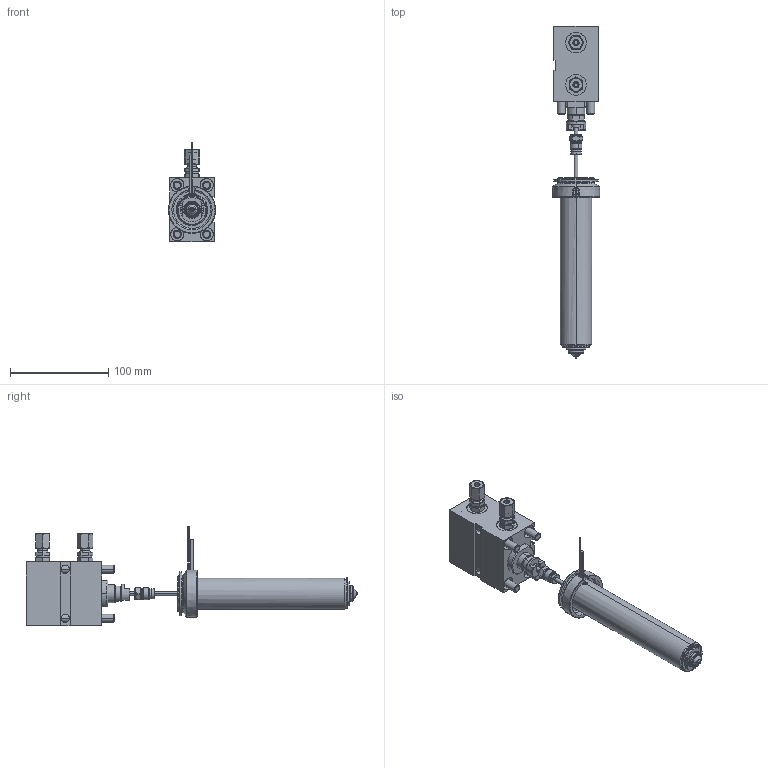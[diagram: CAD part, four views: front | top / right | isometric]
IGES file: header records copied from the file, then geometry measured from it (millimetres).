
Start section: Write IGES format                                    datakit 2008 (c)
Global section: file name: Unknown; native system: DATAKIT Converter; preprocessor: Unknown; author: Unknown; organization: Unknown; date: 950613.180003; units: millimetre
Bounding box: 47.98 x 338.5 x 101.12 mm (x, y, z)
Surface area: 150976.9 mm2 (no closed solid volume)
Topology: 0 solids, 0 shells, 748 faces, 3370 edges, 3356 vertices
Faces by surface type: revolution 472, bspline 276
